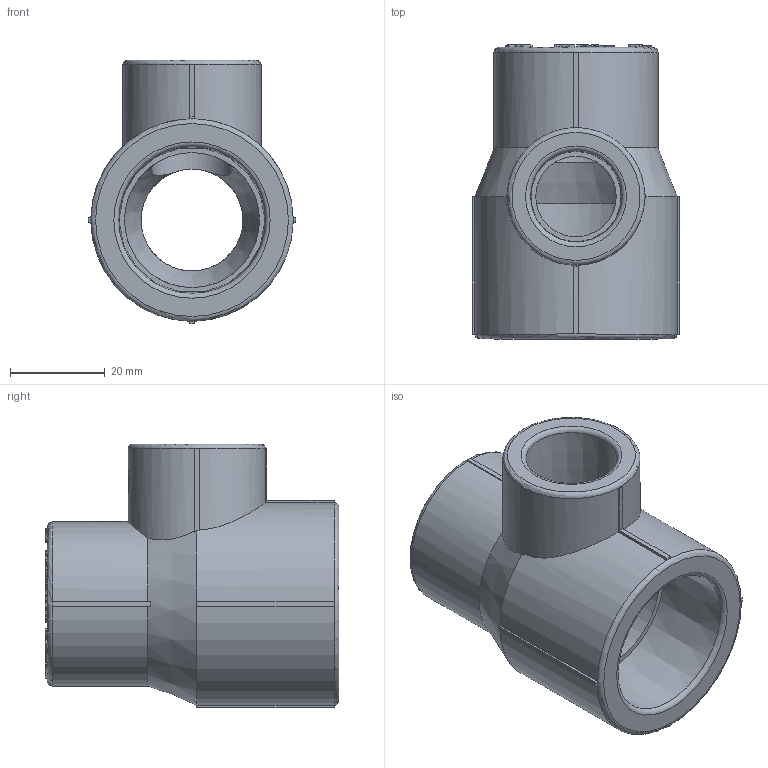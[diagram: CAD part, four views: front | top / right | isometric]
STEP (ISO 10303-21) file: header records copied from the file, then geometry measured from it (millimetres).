
FILE_DESCRIPTION(('STEP AP203'), '1');
FILE_NAME('ÂÐ.752241.056 - VTp.735.0.032020025', '', ('UNSPECIFIED'), ('UNSPECIFIED'), 'C3D Converter', 'C3D Toolkit', '');
FILE_SCHEMA(('CONFIG_CONTROL_DESIGN'));
Length unit declared in the file: millimetre
Products named in the file (1): ВР.752241.056
Bounding box: 43.8 x 62 x 55.65 mm (x, y, z)
Volume: 44250.1 mm3; surface area: 16531.6 mm2
Topology: 1 solids, 1 shells, 1216 faces, 3421 edges, 2270 vertices
Faces by surface type: extrusion 719, plane 446, cylinder 40, torus 6, cone 5
Full cylindrical faces by diameter (mm): 6 x1, 17 x1, 21.5 x1, 28.5 x1
Entity records: 44638 total; most frequent: CARTESIAN_POINT 16935, ORIENTED_EDGE 6816, DIRECTION 3431, EDGE_CURVE 3408, VECTOR 2315, VERTEX_POINT 2270, B_SPLINE_CURVE_WITH_KNOTS 2181, LINE 1596
